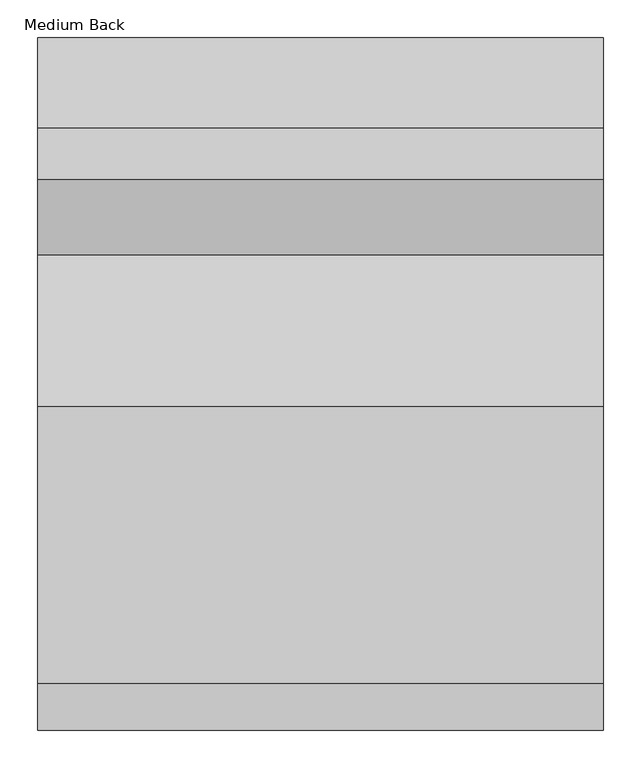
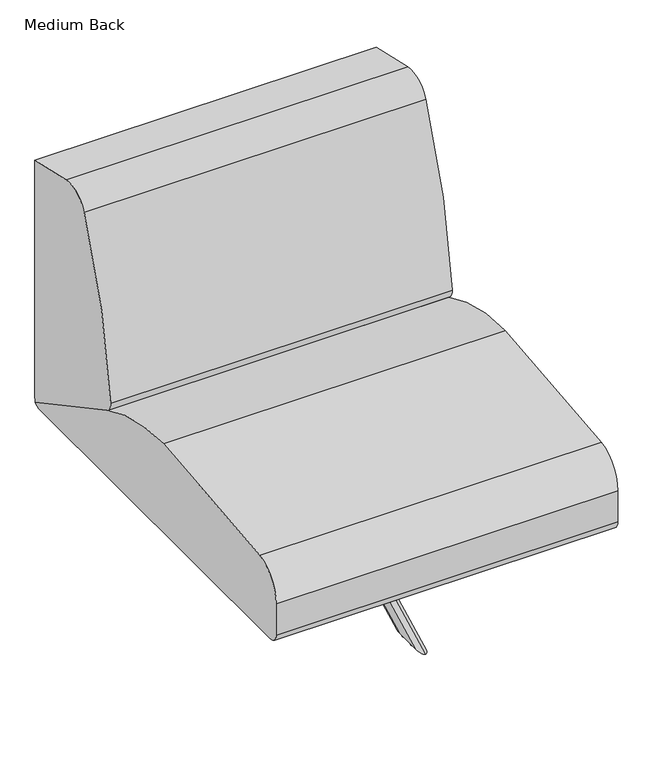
"""IFC4 building model written with IfcOpenShell, lengths in millimetres: furniture geometry, Coalesse_AM_Seating_LoungeChair_Sistema_LegBase_OneSeatConnector : Medium Back."""

from ifc_helpers import new_model, si_unit, point, frame, frame_2d, origin, origin_with_axes, place, context, project, spatial, polyline, circle_curve, ellipse_curve, trimmed, segment, composite_curve, outline, extrude, source, transform, mapped, element, save
from ifc_brep_helpers import plane_surface, cylinder_surface, advanced_brep


def medium_back_61e54698(model_context):
    return source(origin(), model_context, "Body", "SolidModel", [
        extrude(outline(composite_curve([segment(trimmed(circle_curve(frame_2d((0.0, 335.9943389)), 6.096), [point((-6.096, 335.9943389))], [point((6.096, 335.9943389))], False, "CARTESIAN"), True, "CONTINUOUS"), segment(trimmed(circle_curve(frame_2d((0.0, 335.9943389)), 6.096), [point((6.096, 335.9943389))], [point((-6.096, 335.9943389))], False, "CARTESIAN"), True, "CONTINUOUS")], self_intersect=False)), origin_with_axes(), (0.0, 0.0, 1.0), 4.3662291),
        extrude(outline(composite_curve([segment(trimmed(circle_curve(frame_2d((0.0, 303.6385124)), 6.096), [point((-6.096, 303.6385124))], [point((6.096, 303.6385124))], False, "CARTESIAN"), True, "CONTINUOUS"), segment(trimmed(circle_curve(frame_2d((0.0, 303.6385124)), 6.096), [point((6.096, 303.6385124))], [point((-6.096, 303.6385124))], False, "CARTESIAN"), True, "CONTINUOUS")], self_intersect=False)), origin_with_axes(), (0.0, 0.0, 1.0), 4.3662291),
        extrude(outline(composite_curve([segment(trimmed(circle_curve(frame_2d((0.0, -335.9943389)), 6.096), [point((-6.096, -335.9943389))], [point((6.096, -335.9943389))], False, "CARTESIAN"), True, "CONTINUOUS"), segment(trimmed(circle_curve(frame_2d((0.0, -335.9943389)), 6.096), [point((6.096, -335.9943389))], [point((-6.096, -335.9943389))], False, "CARTESIAN"), True, "CONTINUOUS")], self_intersect=False)), origin_with_axes(), (0.0, 0.0, 1.0), 4.3662291),
        extrude(outline(composite_curve([segment(trimmed(circle_curve(frame_2d((0.0, -303.6385124)), 6.096), [point((-6.096, -303.6385124))], [point((6.096, -303.6385124))], False, "CARTESIAN"), True, "CONTINUOUS"), segment(trimmed(circle_curve(frame_2d((0.0, -303.6385124)), 6.096), [point((6.096, -303.6385124))], [point((-6.096, -303.6385124))], False, "CARTESIAN"), True, "CONTINUOUS")], self_intersect=False)), origin_with_axes(), (0.0, 0.0, 1.0), 4.3662291),
        advanced_brep(
        [(-8.1591128, 0.0, 154.6555284), (0.0, 0.0, 142.7531063), (0.0, -271.5995388, 4.3662291), (-8.1591128, -294.9593577, 4.3662291), (8.8360556, 0.0, 154.6555284), (8.8360556, -294.9593577, 4.3662291), (8.8360556, 294.9593577, 4.3662291), (8.8360556, 360.2442446, 4.3662291), (8.8360556, 0.0, 187.9198398), (8.8360556, -360.2442446, 4.3662291), (0.0, 0.0, 199.3202956), (0.0, -382.6188989, 4.3662291), (-8.1591128, 0.0, 187.9198398), (-8.1591128, -360.2442446, 4.3662291), (-8.1591128, 360.2442446, 4.3662291), (-8.1591128, 294.9593577, 4.3662291), (0.0, 271.5995388, 4.3662291), (0.0, 382.6188989, 4.3662291)],
        [
            (0, 1, ellipse_curve(frame((2.8126701, 0.0, 154.6555284), z_axis=(0.0, -0.9999999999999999, 0.0), x_axis=(0.0, 0.0, -1.0)), 12.3139198, 10.9717828)),
            (1, 2),
            (2, 3, ellipse_curve(frame((2.8126701, -294.9593577, 4.3662291), z_axis=(0.0, 0.0, 1.0), x_axis=(0.0, -0.9999999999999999, 0.0)), 24.1674283, 10.9717828)),
            (3, 0),
            (1, 4, ellipse_curve(frame((-1.9461754, 0.0, 154.6555284), z_axis=(0.0, -0.9999999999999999, 0.0), x_axis=(0.0, 0.0, -1.0)), 12.1011807, 10.782231)),
            (4, 5),
            (5, 2, ellipse_curve(frame((-1.9461754, -294.9593577, 4.3662291), z_axis=(0.0, 0.0, 1.0), x_axis=(0.0, -0.9999999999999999, 0.0)), 23.7499044, 10.782231)),
            (4, 6),
            (6, 7),
            (7, 8),
            (8, 9),
            (9, 5),
            (8, 10, ellipse_curve(frame((-1.4206937, 0.0, 187.9198398), z_axis=(0.0, -0.9999999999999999, 0.0), x_axis=(0.0, 0.0, -1.0)), 11.5114188, 10.2567493)),
            (10, 11),
            (11, 9, ellipse_curve(frame((-1.4206937, -360.2442446, 4.3662291), z_axis=(0.0, 0.0, 1.0), x_axis=(0.0, -0.9999999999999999, 0.0)), 22.5924315, 10.2567493)),
            (10, 12, ellipse_curve(frame((2.2435904, 0.0, 187.9198398), z_axis=(0.0, -0.9999999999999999, 0.0), x_axis=(0.0, 0.0, -1.0)), 11.6752267, 10.4027032)),
            (12, 13),
            (13, 11, ellipse_curve(frame((2.2435904, -360.2442446, 4.3662291), z_axis=(0.0, 0.0, 1.0), x_axis=(0.0, -0.9999999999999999, 0.0)), 22.9139226, 10.4027032)),
            (3, 13),
            (12, 14),
            (14, 15),
            (15, 0),
            (15, 16, ellipse_curve(frame((2.8126701, 294.9593577, 4.3662291), z_axis=(0.0, 0.0, 1.0), x_axis=(0.0, -1.0, 0.0)), 24.1674283, 10.9717828)),
            (16, 1),
            (16, 6, ellipse_curve(frame((-1.9461754, 294.9593577, 4.3662291), z_axis=(0.0, 0.0, 1.0), x_axis=(0.0, -1.0, 0.0)), 23.7499044, 10.782231)),
            (7, 17, ellipse_curve(frame((-1.4206937, 360.2442446, 4.3662291), z_axis=(0.0, 0.0, 1.0), x_axis=(0.0, -1.0, 0.0)), 22.5924315, 10.2567493)),
            (17, 10),
            (17, 14, ellipse_curve(frame((2.2435904, 360.2442446, 4.3662291), z_axis=(0.0, 0.0, 1.0), x_axis=(0.0, -1.0, 0.0)), 22.9139226, 10.4027032)),
        ],
        [
            cylinder_surface(frame((2.8126701, -406.1496224, -52.2880405), z_axis=(0.0, -0.891006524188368, -0.45399049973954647), x_axis=(1.0, 0.0, 0.0)), 10.9717828),
            cylinder_surface(frame((-1.9461754, -406.1496224, -52.2880405), z_axis=(0.0, -0.891006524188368, -0.45399049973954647), x_axis=(1.0, 0.0, 0.0)), 10.782231),
            plane_surface(frame((8.8360556, -406.1496224, -52.2880405), z_axis=(1.0, 0.0, 0.0), x_axis=(0.0, 0.8910065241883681, 0.45399049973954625))),
            cylinder_surface(frame((-1.4206937, -419.605319, -25.8797489), z_axis=(0.0, -0.891006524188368, -0.45399049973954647), x_axis=(1.0, 0.0, 0.0)), 10.2567493),
            cylinder_surface(frame((2.2435904, -419.605319, -25.8797489), z_axis=(0.0, -0.891006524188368, -0.45399049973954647), x_axis=(1.0, 0.0, 0.0)), 10.4027032),
            plane_surface(frame((-8.1591128, -419.605319, -25.8797489), z_axis=(-1.0000000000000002, 0.0, 0.0), x_axis=(0.0, 0.8910065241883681, 0.45399049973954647))),
            cylinder_surface(frame((2.8126701, 27.0708966, 140.8622177), z_axis=(0.0, -0.8910065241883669, 0.45399049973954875), x_axis=(1.0, 0.0, 0.0)), 10.9717828),
            cylinder_surface(frame((-1.9461754, 27.0708966, 140.8622177), z_axis=(0.0, -0.8910065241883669, 0.45399049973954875), x_axis=(1.0, 0.0, 0.0)), 10.782231),
            cylinder_surface(frame((-1.4206937, 40.5265933, 167.2705092), z_axis=(0.0, -0.8910065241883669, 0.45399049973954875), x_axis=(1.0, 0.0, 0.0)), 10.2567493),
            cylinder_surface(frame((2.2435904, 40.5265933, 167.2705092), z_axis=(0.0, -0.8910065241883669, 0.45399049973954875), x_axis=(1.0, 0.0, 0.0)), 10.4027032),
            plane_surface(frame((-304.8, 253.4374013, 4.3662291), z_axis=(0.0, 0.0, -1.0), x_axis=(1.0, 0.0, 0.0))),
            plane_surface(frame((-304.8, -424.8336244, 4.3662291), z_axis=(0.0, 0.0, -1.0), x_axis=(1.0, 0.0, 0.0))),
        ],
        [
            (0, [[1, 2, 3, 4]]),
            (1, [[5, 6, 7, -2]]),
            (2, [[-6, 8, 9, 10, 11, 12]]),
            (3, [[13, 14, 15, -11]]),
            (4, [[16, 17, 18, -14]]),
            (5, [[-4, 19, -17, 20, 21, 22]]),
            (6, [[-1, -22, 23, 24]]),
            (7, [[-5, -24, 25, -8]]),
            (8, [[-13, -10, 26, 27]]),
            (9, [[-16, -27, 28, -20]]),
            (10, [[-9, -25, -23, -21, -28, -26]]),
            (11, [[-3, -7, -12, -15, -18, -19]]),
        ],
    ),
        extrude(outline(composite_curve([segment(polyline([(179.3836606, 22.6505283), (179.3836606, -22.0535686)]), True, "CONTINUOUS"), segment(trimmed(circle_curve(frame_2d((176.3356606, -22.0535686)), 3.048), [point((179.3836606, -22.0535686))], [point((176.3356606, -25.1015686))], False, "CARTESIAN"), True, "CONTINUOUS"), segment(polyline([(176.3356606, -25.1015686), (157.056462, -25.1015686)]), True, "CONTINUOUS"), segment(trimmed(circle_curve(frame_2d((157.056462, -22.0370274)), 3.0645412), [point((157.056462, -25.1015686))], [point((153.9919209, -22.0370274))], False, "CARTESIAN"), True, "CONTINUOUS"), segment(polyline([(153.9919209, -22.0370274), (153.9919209, 22.6505283)]), True, "CONTINUOUS"), segment(trimmed(circle_curve(frame_2d((157.0399209, 22.6505283)), 3.048), [point((153.9919209, 22.6505283))], [point((157.0399209, 25.6985283))], False, "CARTESIAN"), True, "CONTINUOUS"), segment(polyline([(157.0399209, 25.6985283), (176.3356606, 25.6985283)]), True, "CONTINUOUS"), segment(trimmed(circle_curve(frame_2d((176.3356606, 22.6505283)), 3.048), [point((176.3356606, 25.6985283))], [point((179.3836606, 22.6505283))], False, "CARTESIAN"), True, "CONTINUOUS")], self_intersect=False)), frame((0.0, -222.3519802, 0.0), z_axis=(0.0, 1.0, 0.0), x_axis=(0.0, 0.0, 1.0)), (0.0, 0.0, 1.0), 444.7039604),
        extrude(outline(composite_curve([segment(polyline([(459.4795619, 775.8234697), (459.4795619, 228.1929806)]), True, "CONTINUOUS"), segment(trimmed(circle_curve(frame_2d((368.0585808, 228.1929806)), 91.4209812), [point((459.4795619, 228.1929806))], [point((458.1072738, 212.4123377))], False, "CARTESIAN"), True, "CONTINUOUS"), segment(polyline([(458.1072738, 212.4123377), (183.8457951, 360.6719742)]), True, "CONTINUOUS"), segment(trimmed(circle_curve(frame_2d((195.9245701, 383.0161724)), 25.4), [point((183.8457951, 360.6719742))], [point((170.6161698, 385.1713698))], False, "CARTESIAN"), True, "CONTINUOUS"), segment(trimmed(circle_curve(frame_2d((1327.5544182, 286.6495247)), 1161.1256023), [point((170.6161698, 385.1713698))], [point((271.1088001, 768.4537592))], False, "CARTESIAN"), True, "CONTINUOUS"), segment(trimmed(circle_curve(frame_2d((326.5730192, 743.158661)), 60.96), [point((271.1088001, 768.4537592))], [point((339.9143278, 802.6408523))], False, "CARTESIAN"), True, "CONTINUOUS"), segment(polyline([(339.9143278, 802.6408523), (459.4795619, 775.8234697)]), True, "CONTINUOUS")], self_intersect=False)), frame((-374.8034773, 0.0, 0.0), z_axis=(1.0, 0.0, 0.0), x_axis=(0.0, 1.0, 0.0)), (0.0, 0.0, 1.0), 752.2863161),
        extrude(outline(composite_curve([segment(trimmed(circle_curve(frame_2d((-438.9184381, 228.2277814)), 22.352), [point((-438.9184381, 205.8757814))], [point((-461.2704381, 228.2277814))], False, "CARTESIAN"), True, "CONTINUOUS"), segment(polyline([(-461.2704381, 228.2277814), (-461.2704381, 301.4421993)]), True, "CONTINUOUS"), segment(trimmed(circle_curve(frame_2d((-385.0704381, 301.4421993)), 76.2), [point((-461.2704381, 301.4421993))], [point((-398.9277015, 376.3716077))], False, "CARTESIAN"), True, "CONTINUOUS"), segment(trimmed(circle_curve(frame_2d((2.2103559, -1792.6740646)), 2205.8265729), [point((-398.9277015, 376.3716077))], [point((-31.1968175, 412.8995185))], False, "CARTESIAN"), True, "CONTINUOUS"), segment(trimmed(circle_curve(frame_2d((-24.5128424, -28.3829182)), 441.333054), [point((-31.1968175, 412.8995185))], [point((184.5757008, 360.2774035))], False, "CARTESIAN"), True, "CONTINUOUS"), segment(polyline([(184.5757008, 360.2774035), (458.1072738, 212.4123377)]), True, "CONTINUOUS"), segment(trimmed(circle_curve(frame_2d((442.3266309, 228.1929806)), 22.3171991), [point((458.1072738, 212.4123377))], [point((442.3266309, 205.8757814))], False, "CARTESIAN"), True, "CONTINUOUS"), segment(polyline([(442.3266309, 205.8757814), (-438.9184381, 205.8757814)]), True, "CONTINUOUS")], self_intersect=False)), frame((-374.8034773, 0.0, 0.0), z_axis=(1.0, 0.0, 0.0), x_axis=(0.0, 1.0, 0.0)), (0.0, 0.0, 1.0), 752.2863161),
    ])


if __name__ == "__main__":
    model = new_model("IFC4")
    model_context = context("Model", 3, world=origin())
    ifc_project = project(units=[si_unit("LENGTHUNIT", "METRE", prefix="MILLI")], contexts=[model_context])
    site = spatial("IfcSite", under=ifc_project)
    building = spatial("IfcBuilding", under=site)
    placement = place(None, origin())
    medium_back_shape = medium_back_61e54698(model_context)
    element("IfcFurniture", 1, ObjectType="Coalesse_AM_Seating_LoungeChair_Sistema_LegBase_OneSeatConnector : Medium Back", at=placement, inside=building, context=model_context, shape_type="MappedRepresentation", body=[
        mapped(medium_back_shape, transform((0.0, 0.0, 0.0), x_axis=(1.0, 0.0, 0.0), y_axis=(0.0, 1.0, 0.0), z_axis=(0.0, 0.0, 1.0))),
    ])
    save(model, "model.ifc")
